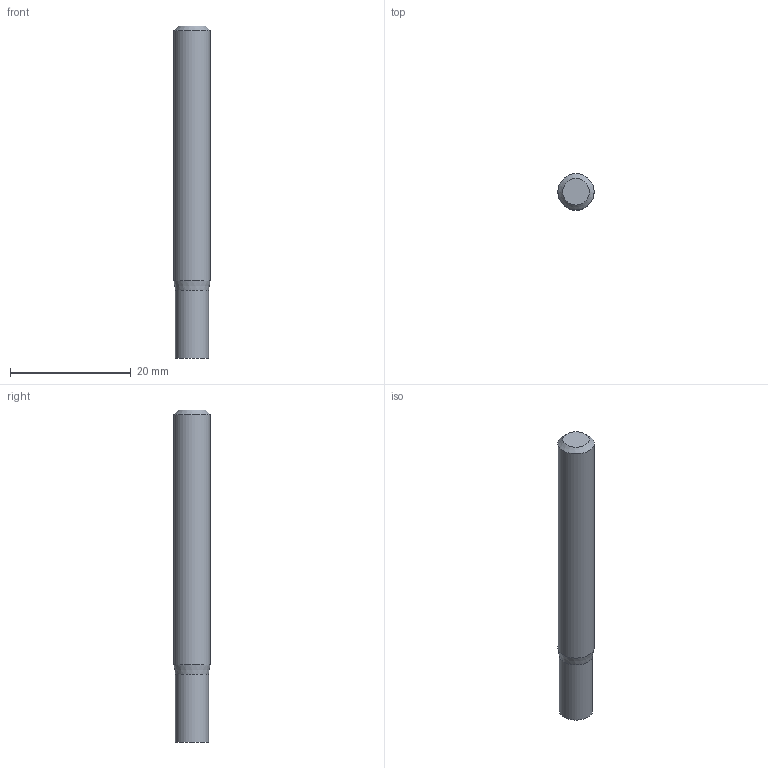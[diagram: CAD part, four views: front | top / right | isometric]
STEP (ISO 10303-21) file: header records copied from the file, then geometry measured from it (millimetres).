
FILE_DESCRIPTION((''),'2;1');
FILE_NAME('C:\Users\nsx150\AppData\Local\Temp\Mastercam 2021\98T1Q6BTT1\TEMP.step','2021-10-21T14:48:54',(''),(''),'STEP Write','Mastercam 2021 ... CNC Software, Inc.','');
FILE_SCHEMA(('AUTOMOTIVE_DESIGN'));
Length unit declared in the file: millimetre
Products named in the file (1): None
Bounding box: 6 x 6 x 55 mm (x, y, z)
Volume: 1495.4 mm3; surface area: 1108.1 mm2
Topology: 2 solids, 2 shells, 8 faces, 10 edges, 6 vertices
Faces by surface type: plane 4, cylinder 2, cone 2
Full cylindrical faces by diameter (mm): 5.5 x1, 6 x1
Entity records: 190 total; most frequent: DIRECTION 32, CARTESIAN_POINT 22, AXIS2_PLACEMENT_3D 16, ORIENTED_EDGE 12, EDGE_LOOP 12, STYLED_ITEM 11, ADVANCED_FACE 8, VERTEX_POINT 6
